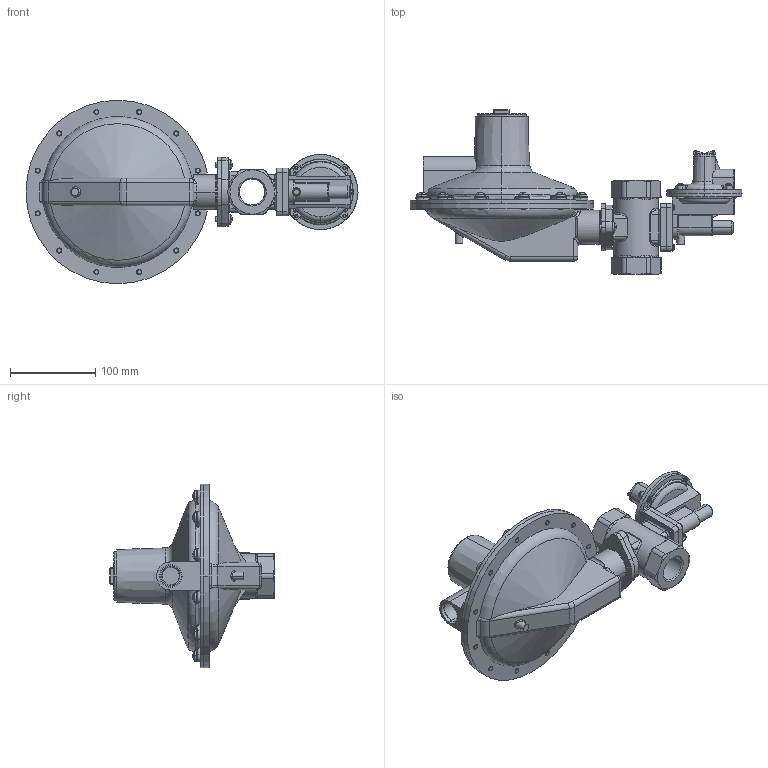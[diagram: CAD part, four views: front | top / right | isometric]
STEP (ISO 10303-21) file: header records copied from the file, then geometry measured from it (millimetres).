
FILE_DESCRIPTION (( 'STEP AP214' ), '1' );
FILE_NAME ('Alz-8.STEP', '2016-02-04T19:40:37', ( '' ), ( '' ), 'SwSTEP 2.0', 'SolidWorks 2014', '' );
FILE_SCHEMA (( 'AUTOMOTIVE_DESIGN' ));
Length unit declared in the file: millimetre
Products named in the file (13): 197 Deckel ND Regler; Alz-8; Sroub M4x12; Sroub M4x15; Sroub M6x15; 93 Gehause SAV; 24 Krytka tahla BU; 1790 Kryci vicko BU; 68 Deckel SAV; 96 Ventilgehause; 3 Flansch; 107 Reglergehause; 121 Deckelverschlus ND-Reg
Assembly tree (31 placements, depth 2):
  Alz-8
    197 Deckel ND Regler
    121 Deckelverschlus ND-Reg
    107 Reglergehause
    3 Flansch
    96 Ventilgehause
    68 Deckel SAV
    1790 Kryci vicko BU
    24 Krytka tahla BU
    93 Gehause SAV
    Sroub M6x15  x14
    Sroub M4x15  x4
    Sroub M4x12  x4
Bounding box: 389 x 193 x 215 mm (x, y, z)
Volume: 1642607.2 mm3; surface area: 350997.5 mm2
Topology: 31 solids, 31 shells, 1370 faces, 3501 edges, 2209 vertices
Faces by surface type: plane 559, cylinder 465, torus 146, cone 98, bspline 52, sphere 50
Entity records: 33782 total; most frequent: CARTESIAN_POINT 10167, DIRECTION 5090, ORIENTED_EDGE 4734, EDGE_CURVE 2367, AXIS2_PLACEMENT_3D 2096, VERTEX_POINT 1487, CIRCLE 1181, EDGE_LOOP 1070
